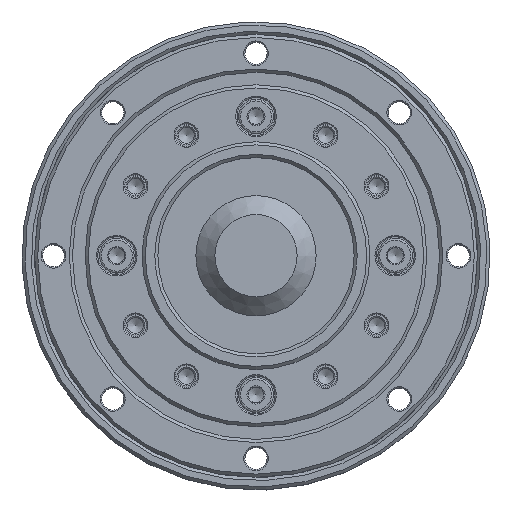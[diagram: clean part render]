
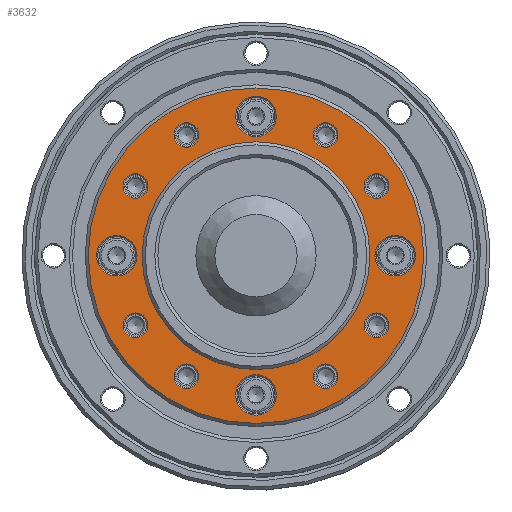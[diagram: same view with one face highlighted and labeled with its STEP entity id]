
A CAD part, top view. The second image highlights one B-rep face of the part: STEP entity #3632.
In plain terms, the highlighted planar face has unit normal (0, 0, 1).
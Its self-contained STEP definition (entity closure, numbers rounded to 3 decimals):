
#3632=ADVANCED_FACE('',(#4862,#4863,#4864,#4865,#4866,#4867,#4868,#4869,
#4870,#4871,#4872,#4873,#4874,#4875),#4040,.T.);
#4040=PLANE('',#13471);
#4862=FACE_BOUND('',#6290,.T.);
#4863=FACE_BOUND('',#6291,.T.);
#4864=FACE_BOUND('',#6292,.T.);
#4865=FACE_BOUND('',#6293,.T.);
#4866=FACE_BOUND('',#6294,.T.);
#4867=FACE_BOUND('',#6295,.T.);
#4868=FACE_BOUND('',#6296,.T.);
#4869=FACE_BOUND('',#6297,.T.);
#4870=FACE_BOUND('',#6298,.T.);
#4871=FACE_BOUND('',#6299,.T.);
#4872=FACE_BOUND('',#6300,.T.);
#4873=FACE_BOUND('',#6301,.T.);
#4874=FACE_BOUND('',#6302,.T.);
#4875=FACE_BOUND('',#6303,.T.);
#6290=EDGE_LOOP('',(#8574));
#6291=EDGE_LOOP('',(#8575));
#6292=EDGE_LOOP('',(#8576));
#6293=EDGE_LOOP('',(#8577));
#6294=EDGE_LOOP('',(#8578));
#6295=EDGE_LOOP('',(#8579));
#6296=EDGE_LOOP('',(#8580));
#6297=EDGE_LOOP('',(#8581));
#6298=EDGE_LOOP('',(#8582));
#6299=EDGE_LOOP('',(#8583));
#6300=EDGE_LOOP('',(#8584));
#6301=EDGE_LOOP('',(#8585));
#6302=EDGE_LOOP('',(#8586));
#6303=EDGE_LOOP('',(#8587));
#8574=ORIENTED_EDGE('',*,*,#11113,.T.);
#8575=ORIENTED_EDGE('',*,*,#11114,.T.);
#8576=ORIENTED_EDGE('',*,*,#11115,.T.);
#8577=ORIENTED_EDGE('',*,*,#11116,.T.);
#8578=ORIENTED_EDGE('',*,*,#11117,.T.);
#8579=ORIENTED_EDGE('',*,*,#11118,.T.);
#8580=ORIENTED_EDGE('',*,*,#11119,.T.);
#8581=ORIENTED_EDGE('',*,*,#11120,.T.);
#8582=ORIENTED_EDGE('',*,*,#11121,.T.);
#8583=ORIENTED_EDGE('',*,*,#11122,.T.);
#8584=ORIENTED_EDGE('',*,*,#11123,.T.);
#8585=ORIENTED_EDGE('',*,*,#11124,.T.);
#8586=ORIENTED_EDGE('',*,*,#11125,.T.);
#8587=ORIENTED_EDGE('',*,*,#11112,.F.);
#9934=VERTEX_POINT('',#21257);
#9935=VERTEX_POINT('',#21260);
#9936=VERTEX_POINT('',#21262);
#9937=VERTEX_POINT('',#21264);
#9938=VERTEX_POINT('',#21266);
#9939=VERTEX_POINT('',#21268);
#9940=VERTEX_POINT('',#21270);
#9941=VERTEX_POINT('',#21272);
#9942=VERTEX_POINT('',#21274);
#9943=VERTEX_POINT('',#21276);
#9944=VERTEX_POINT('',#21278);
#9945=VERTEX_POINT('',#21280);
#9946=VERTEX_POINT('',#21282);
#9947=VERTEX_POINT('',#21284);
#11112=EDGE_CURVE('',#9934,#9934,#12040,.T.);
#11113=EDGE_CURVE('',#9935,#9935,#12041,.T.);
#11114=EDGE_CURVE('',#9936,#9936,#12042,.T.);
#11115=EDGE_CURVE('',#9937,#9937,#12043,.T.);
#11116=EDGE_CURVE('',#9938,#9938,#12044,.T.);
#11117=EDGE_CURVE('',#9939,#9939,#12045,.T.);
#11118=EDGE_CURVE('',#9940,#9940,#12046,.T.);
#11119=EDGE_CURVE('',#9941,#9941,#12047,.T.);
#11120=EDGE_CURVE('',#9942,#9942,#12048,.T.);
#11121=EDGE_CURVE('',#9943,#9943,#12049,.T.);
#11122=EDGE_CURVE('',#9944,#9944,#12050,.T.);
#11123=EDGE_CURVE('',#9945,#9945,#12051,.T.);
#11124=EDGE_CURVE('',#9946,#9946,#12052,.T.);
#11125=EDGE_CURVE('',#9947,#9947,#12053,.T.);
#12040=CIRCLE('',#13456,26.5);
#12041=CIRCLE('',#13458,3.2);
#12042=CIRCLE('',#13459,3.2);
#12043=CIRCLE('',#13460,3.2);
#12044=CIRCLE('',#13461,3.2);
#12045=CIRCLE('',#13462,1.95);
#12046=CIRCLE('',#13463,1.95);
#12047=CIRCLE('',#13464,1.95);
#12048=CIRCLE('',#13465,1.95);
#12049=CIRCLE('',#13466,1.95);
#12050=CIRCLE('',#13467,1.95);
#12051=CIRCLE('',#13468,1.95);
#12052=CIRCLE('',#13469,1.95);
#12053=CIRCLE('',#13470,18.);
#13456=AXIS2_PLACEMENT_3D('',#21256,#16485,#16486);
#13458=AXIS2_PLACEMENT_3D('',#21259,#16489,#16490);
#13459=AXIS2_PLACEMENT_3D('',#21261,#16491,#16492);
#13460=AXIS2_PLACEMENT_3D('',#21263,#16493,#16494);
#13461=AXIS2_PLACEMENT_3D('',#21265,#16495,#16496);
#13462=AXIS2_PLACEMENT_3D('',#21267,#16497,#16498);
#13463=AXIS2_PLACEMENT_3D('',#21269,#16499,#16500);
#13464=AXIS2_PLACEMENT_3D('',#21271,#16501,#16502);
#13465=AXIS2_PLACEMENT_3D('',#21273,#16503,#16504);
#13466=AXIS2_PLACEMENT_3D('',#21275,#16505,#16506);
#13467=AXIS2_PLACEMENT_3D('',#21277,#16507,#16508);
#13468=AXIS2_PLACEMENT_3D('',#21279,#16509,#16510);
#13469=AXIS2_PLACEMENT_3D('',#21281,#16511,#16512);
#13470=AXIS2_PLACEMENT_3D('',#21283,#16513,#16514);
#13471=AXIS2_PLACEMENT_3D('',#21285,#16515,#16516);
#16485=DIRECTION('',(0.,0.,-1.));
#16486=DIRECTION('',(-1.,0.,0.));
#16489=DIRECTION('',(0.,0.,-1.));
#16490=DIRECTION('',(1.,0.,0.));
#16491=DIRECTION('',(0.,0.,-1.));
#16492=DIRECTION('',(1.,0.,0.));
#16493=DIRECTION('',(0.,0.,-1.));
#16494=DIRECTION('',(1.,0.,0.));
#16495=DIRECTION('',(0.,0.,-1.));
#16496=DIRECTION('',(1.,0.,0.));
#16497=DIRECTION('',(0.,0.,-1.));
#16498=DIRECTION('',(1.,0.,0.));
#16499=DIRECTION('',(0.,0.,-1.));
#16500=DIRECTION('',(1.,0.,0.));
#16501=DIRECTION('',(0.,0.,-1.));
#16502=DIRECTION('',(1.,0.,0.));
#16503=DIRECTION('',(0.,0.,-1.));
#16504=DIRECTION('',(1.,0.,0.));
#16505=DIRECTION('',(0.,0.,-1.));
#16506=DIRECTION('',(1.,0.,0.));
#16507=DIRECTION('',(0.,0.,-1.));
#16508=DIRECTION('',(1.,0.,0.));
#16509=DIRECTION('',(0.,0.,-1.));
#16510=DIRECTION('',(1.,0.,0.));
#16511=DIRECTION('',(0.,0.,-1.));
#16512=DIRECTION('',(1.,0.,0.));
#16513=DIRECTION('',(0.,0.,-1.));
#16514=DIRECTION('',(-1.,0.,0.));
#16515=DIRECTION('',(0.,0.,1.));
#16516=DIRECTION('',(1.,0.,0.));
#21256=CARTESIAN_POINT('',(0.,0.,8.));
#21257=CARTESIAN_POINT('',(-26.5,0.,8.));
#21259=CARTESIAN_POINT('',(-22.,0.,8.));
#21260=CARTESIAN_POINT('',(-18.8,0.,8.));
#21261=CARTESIAN_POINT('',(0.,-22.,8.));
#21262=CARTESIAN_POINT('',(3.2,-22.,8.));
#21263=CARTESIAN_POINT('',(22.,0.,8.));
#21264=CARTESIAN_POINT('',(25.2,0.,8.));
#21265=CARTESIAN_POINT('',(0.,22.,8.));
#21266=CARTESIAN_POINT('',(3.2,22.,8.));
#21267=CARTESIAN_POINT('',(-11.,19.053,8.));
#21268=CARTESIAN_POINT('',(-9.05,19.053,8.));
#21269=CARTESIAN_POINT('',(-19.053,11.,8.));
#21270=CARTESIAN_POINT('',(-17.103,11.,8.));
#21271=CARTESIAN_POINT('',(-19.053,-11.,8.));
#21272=CARTESIAN_POINT('',(-17.103,-11.,8.));
#21273=CARTESIAN_POINT('',(-11.,-19.053,8.));
#21274=CARTESIAN_POINT('',(-9.05,-19.053,8.));
#21275=CARTESIAN_POINT('',(11.,-19.053,8.));
#21276=CARTESIAN_POINT('',(12.95,-19.053,8.));
#21277=CARTESIAN_POINT('',(19.053,-11.,8.));
#21278=CARTESIAN_POINT('',(21.003,-11.,8.));
#21279=CARTESIAN_POINT('',(19.053,11.,8.));
#21280=CARTESIAN_POINT('',(21.003,11.,8.));
#21281=CARTESIAN_POINT('',(11.,19.053,8.));
#21282=CARTESIAN_POINT('',(12.95,19.053,8.));
#21283=CARTESIAN_POINT('',(0.,0.,8.));
#21284=CARTESIAN_POINT('',(-18.,0.,8.));
#21285=CARTESIAN_POINT('',(26.5,0.,8.));
